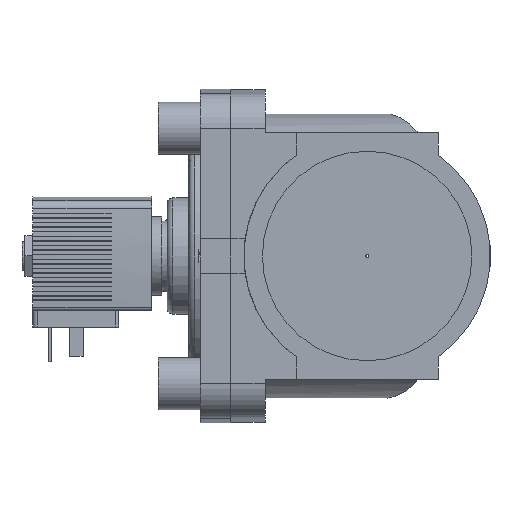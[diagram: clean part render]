
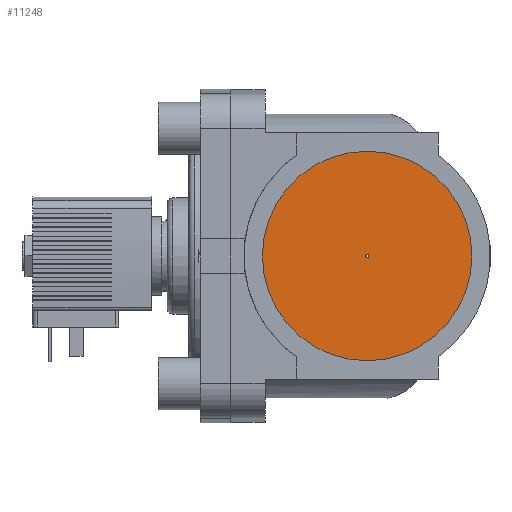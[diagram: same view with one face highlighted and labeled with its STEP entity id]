
A CAD part, left-side view. The second image highlights one B-rep face of the part: STEP entity #11248.
In plain terms, the highlighted planar face has unit normal (-1, 0, 0).
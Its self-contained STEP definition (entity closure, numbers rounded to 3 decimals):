
#2945=ORIENTED_EDGE('',*,*,#5077,.T.);
#2946=ORIENTED_EDGE('',*,*,#5076,.F.);
#5076=EDGE_CURVE('',#6212,#6212,#6887,.T.);
#5077=EDGE_CURVE('',#6213,#6213,#6888,.T.);
#6212=VERTEX_POINT('',#15536);
#6213=VERTEX_POINT('',#15539);
#6887=CIRCLE('',#11834,37.592);
#6888=CIRCLE('',#11836,0.5);
#7180=EDGE_LOOP('',(#2945));
#7181=EDGE_LOOP('',(#2946));
#7675=FACE_BOUND('',#7180,.T.);
#7676=FACE_BOUND('',#7181,.T.);
#8096=PLANE('',#11835);
#11248=ADVANCED_FACE('',(#7675,#7676),#8096,.T.);
#11834=AXIS2_PLACEMENT_3D('',#15535,#13066,#13067);
#11835=AXIS2_PLACEMENT_3D('',#15537,#13068,#13069);
#11836=AXIS2_PLACEMENT_3D('',#15538,#13070,#13071);
#13066=DIRECTION('',(1.,0.,0.));
#13067=DIRECTION('',(0.,0.,-1.));
#13068=DIRECTION('',(-1.,0.,0.));
#13069=DIRECTION('',(0.,0.,1.));
#13070=DIRECTION('',(1.,0.,0.));
#13071=DIRECTION('',(0.,0.,-1.));
#15535=CARTESIAN_POINT('',(-65.,-47.,0.));
#15536=CARTESIAN_POINT('',(-65.,-47.,-37.592));
#15537=CARTESIAN_POINT('',(-65.,-9.408,0.));
#15538=CARTESIAN_POINT('',(-65.,-47.,0.));
#15539=CARTESIAN_POINT('',(-65.,-47.,-0.5));
